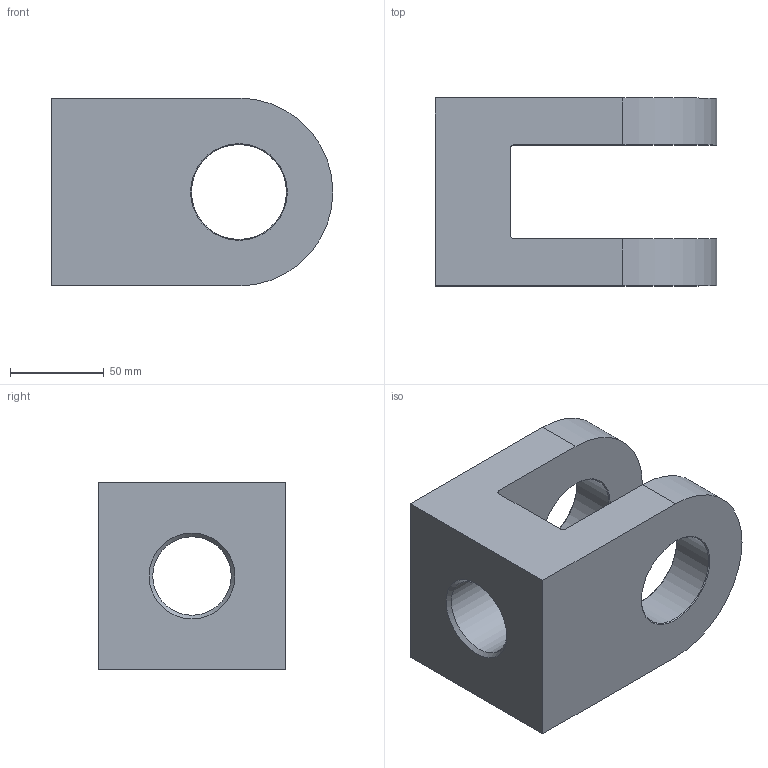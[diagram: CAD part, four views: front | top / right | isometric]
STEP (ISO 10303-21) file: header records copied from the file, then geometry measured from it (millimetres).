
FILE_DESCRIPTION( ( 'Unknown' ), '1' );
FILE_NAME( 'E:/LIBRERIA_3d/ACCESSORI/CFF0504530.stp', 'Unknown', ( 'Unknown' ), ( 'Unknown' ), 'PSStep 17.0.49', 'Unknown', ' ' );
FILE_SCHEMA( ( 'AUTOMOTIVE_DESIGN { 1 0 10303 214 1 1 1 1 }' ) );
Length unit declared in the file: millimetre
Products named in the file (1): 1
Bounding box: 150 x 100 x 100 mm (x, y, z)
Volume: 741257.4 mm3; surface area: 86489.8 mm2
Topology: 1 solids, 1 shells, 20 faces, 52 edges, 34 vertices
Faces by surface type: plane 8, cylinder 7, cone 5
Full cylindrical faces by diameter (mm): 41.752 x1, 50.5 x2
Entity records: 740 total; most frequent: DIRECTION 102, CARTESIAN_POINT 93, ORIENTED_EDGE 82, EDGE_CURVE 41, AXIS2_PLACEMENT_3D 40, EDGE_LOOP 34, VERTEX_POINT 31, FACE_OUTER_BOUND 23
